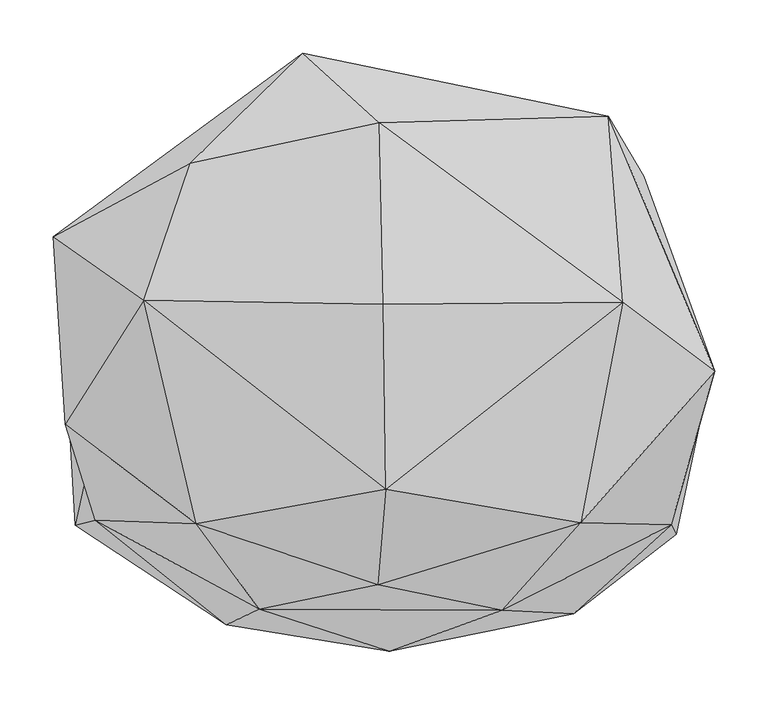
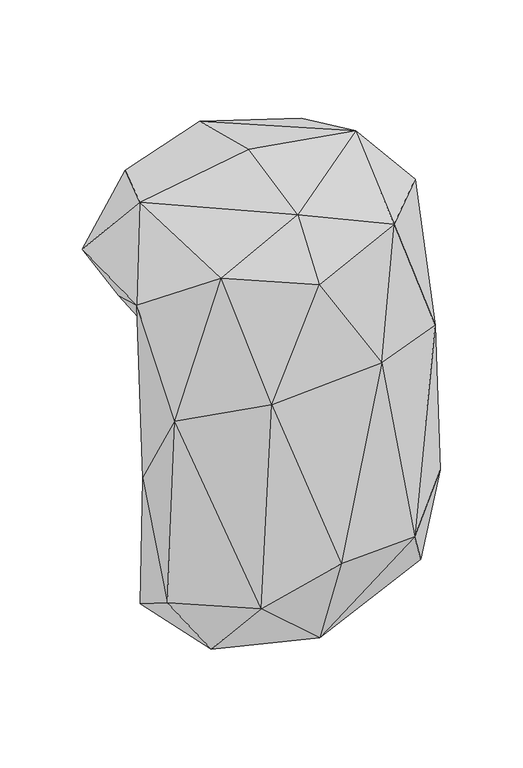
"""IFC4 building model written with IfcOpenShell, lengths in millimetres: geographic element geometry, Enscape AssetDefinition - Creeper Plant 001 Bower Vine : Enscape AssetDefinition - Creeper Plant 001 Bower Vine."""

from ifc_helpers import new_model, si_unit, origin, place, context, project, spatial, triangles, source, transform, mapped, element, save


def geographic_element_9647795e(model_context):
    return source(origin(), model_context, "Body", "Tessellation", [
        triangles([(-269.9570141, 0.0, 0.0), (269.9570141, 0.0, 0.0), (246.9419945, 0.0, -198.6909971), (288.1389894, -56.0170023, -73.4469976), (-305.0140131, -54.7600024, 72.4499972), (-266.7610065, 76.4899987, 0.0), (229.8099916, 127.5710014, 0.0), (-195.7910106, 170.3120062, 0.0), (-316.3010058, 121.1080056, 92.4580011), (-188.1709997, 189.8730034, 179.6229931), (-231.7409965, 61.6730024, 202.4929998), (-82.9790012, 292.4300065, 97.2649933), (-186.8960049, 195.5859904, 11.3480003), (216.2679947, 59.817002, 203.3600072), (-11.4349999, 227.3710052, 202.4109917), (-7.6159999, 57.5369995, 243.2979946), (-1.6139999, 242.5639914, 3.84), (-1.633, 237.4469891, 0.0), (203.008993, 233.8359994, 130.9279912), (235.9560009, 177.6109975, 34.1300002), (13.7919997, 229.3490095, 0.0), (-17.3640008, 229.7659899, 0.0), (177.2780055, -146.7140008, 137.7219988), (302.3450081, -5.1409999, 106.2830021), (-5.3390001, -115.2070031, 202.571011), (-12.64, -204.7639913, 106.2059991), (103.8989997, -228.527984, -91.8089946), (261.6319954, -148.4030056, -113.4380068), (266.2709928, -157.4930031, -426.5240018), (170.6330077, -231.5450056, -495.4859988), (273.9439982, -59.1370017, -596.1339978), (226.2610076, -156.7550031, -609.563992), (177.5389997, 0.0, -632.8599901), (273.5620085, -52.4259969, -347.0070168), (84.5310049, -55.8800012, -735.3059898), (-2.0719999, -266.8179797, -473.3289937), (7.8019998, -170.9550084, -697.0650101), (-301.1260055, -59.8659997, -581.3310133), (-210.1580116, 0.0, -613.8970488), (-177.8690123, -103.2649995, -699.1350145), (-36.5159988, 0.0, -705.411957), (27.2349996, 0.0, -716.1559959), (-264.636009, -6.3910003, -350.7930139), (215.0610008, 0.0, -357.8150053), (236.5960054, 0.0, -509.7820012), (-249.7660046, 0.0, -584.2940228), (-277.1669847, -144.1109892, -138.155993), (-154.6310048, -241.9000058, -533.4299764), (-295.7659947, -148.7819977, -528.0640248), (-182.4849914, -147.4740016, 144.6120034), (-123.8489993, -227.7400053, -104.6680025), (235.3069852, 0.0, -589.825989)], [[44, 3, 34], [45, 44, 34], [34, 52, 45], [38, 46, 39], [25, 14, 16], [27, 26, 51], [51, 48, 36], [27, 51, 36], [51, 26, 50], [26, 25, 50], [48, 51, 47], [50, 47, 51], [48, 47, 49], [43, 38, 49], [38, 43, 46], [43, 49, 47], [39, 46, 43], [43, 45, 52], [43, 44, 45], [43, 3, 44], [43, 52, 33], [43, 33, 42], [43, 41, 39], [43, 42, 41], [39, 41, 40], [48, 49, 40], [38, 39, 40], [40, 49, 38], [48, 40, 37], [36, 48, 37], [41, 35, 40], [41, 42, 35], [35, 37, 40], [35, 42, 33], [34, 31, 52], [31, 33, 52], [31, 35, 33], [37, 35, 32], [31, 32, 35], [37, 30, 36], [32, 30, 37], [30, 27, 36], [32, 29, 30], [31, 29, 32], [34, 29, 31], [34, 4, 29], [4, 34, 3], [28, 27, 30], [28, 30, 29], [4, 28, 29], [23, 14, 25], [28, 23, 27], [25, 26, 23], [23, 26, 27], [4, 24, 28], [14, 23, 24], [23, 28, 24], [7, 8, 22], [22, 21, 7], [22, 18, 21], [20, 7, 21], [19, 24, 20], [24, 19, 14], [20, 21, 17], [17, 22, 8], [20, 17, 19], [17, 18, 22], [17, 21, 18], [17, 8, 13], [17, 13, 12], [12, 19, 17], [14, 15, 16], [19, 12, 15], [14, 19, 15], [11, 50, 25], [15, 11, 16], [11, 25, 16], [15, 10, 11], [10, 15, 12], [8, 9, 13], [9, 12, 13], [10, 12, 9], [10, 9, 11], [50, 5, 47], [47, 5, 43], [9, 5, 11], [50, 11, 5], [8, 6, 9], [5, 9, 6], [7, 6, 8], [5, 6, 1], [5, 1, 43], [7, 1, 6], [24, 4, 2], [4, 3, 2], [20, 2, 7], [20, 24, 2], [43, 2, 3], [43, 1, 2], [7, 2, 1]]),
    ])


if __name__ == "__main__":
    model = new_model("IFC4")
    model_context = context("Model", 3, world=origin())
    ifc_project = project(units=[si_unit("LENGTHUNIT", "METRE", prefix="MILLI")], contexts=[model_context])
    site = spatial("IfcSite", under=ifc_project)
    building = spatial("IfcBuilding", under=site)
    placement = place(None, origin())
    geographic_element_shape = geographic_element_9647795e(model_context)
    element("IfcGeographicElement", 1, ObjectType="Enscape AssetDefinition - Creeper Plant 001 Bower Vine : Enscape AssetDefinition - Creeper Plant 001 Bower Vine", at=placement, inside=building, context=model_context, shape_type="MappedRepresentation", body=[
        mapped(geographic_element_shape, transform((0.0, 0.0, 0.0), x_axis=(1.0, 0.0, 0.0), y_axis=(0.0, 1.0, 0.0), z_axis=(0.0, 0.0, 1.0))),
    ])
    save(model, "model.ifc")
